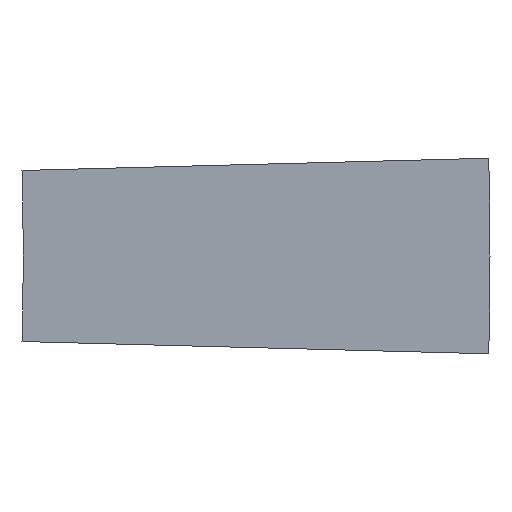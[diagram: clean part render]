
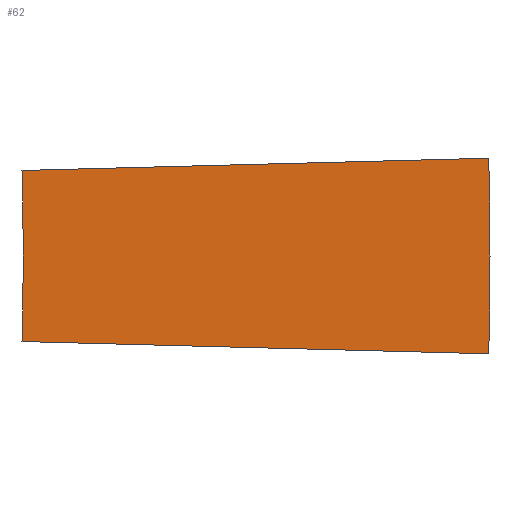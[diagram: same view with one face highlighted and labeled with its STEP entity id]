
A CAD part, front view. The second image highlights one B-rep face of the part: STEP entity #62.
In plain terms, the highlighted planar face has unit normal (0, -1, 0).
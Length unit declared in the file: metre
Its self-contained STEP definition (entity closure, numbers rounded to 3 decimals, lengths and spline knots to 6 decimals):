
#62=ADVANCED_FACE('0:2585',(#89),#90,.T.);
#89=FACE_OUTER_BOUND('',#118,.T.);
#90=PLANE('',#119);
#118=EDGE_LOOP('',(#212,#213,#214,#215,#216,#217));
#119=AXIS2_PLACEMENT_3D('',#218,#219,#220);
#212=ORIENTED_EDGE('',*,*,#273,.T.);
#213=ORIENTED_EDGE('',*,*,#274,.F.);
#214=ORIENTED_EDGE('',*,*,#243,.F.);
#215=ORIENTED_EDGE('',*,*,#256,.T.);
#216=ORIENTED_EDGE('',*,*,#272,.T.);
#217=ORIENTED_EDGE('',*,*,#247,.T.);
#218=CARTESIAN_POINT('',(0.0375,0.003,0.0));
#219=DIRECTION('',(0.,-1.0,0.0));
#220=DIRECTION('',(1.0,0.,-0.0));
#243=EDGE_CURVE('0:2657',#281,#277,#283,.T.);
#247=EDGE_CURVE('0:2648',#285,#289,#291,.T.);
#256=EDGE_CURVE('0:2660',#281,#308,#309,.T.);
#272=EDGE_CURVE('0:2648',#308,#285,#331,.T.);
#273=EDGE_CURVE('0:2654',#289,#332,#333,.T.);
#274=EDGE_CURVE('0:2657',#277,#332,#334,.T.);
#277=VERTEX_POINT('',#337);
#281=VERTEX_POINT('',#342);
#283=CIRCLE('',#345,0.035);
#285=VERTEX_POINT('',#347);
#289=VERTEX_POINT('',#352);
#291=CIRCLE('',#355,0.04);
#308=VERTEX_POINT('',#376);
#309=LINE('',#377,#378);
#331=CIRCLE('',#409,0.04);
#332=VERTEX_POINT('',#410);
#333=LINE('',#411,#412);
#334=CIRCLE('',#413,0.035);
#337=CARTESIAN_POINT('',(0.035,0.003,0.));
#342=CARTESIAN_POINT('',(0.034988,0.003,-0.000916));
#345=AXIS2_PLACEMENT_3D('',#421,#422,#423);
#347=CARTESIAN_POINT('',(0.04,0.003,0.));
#352=CARTESIAN_POINT('',(0.039986,0.003,0.001047));
#355=AXIS2_PLACEMENT_3D('',#429,#430,#431);
#376=CARTESIAN_POINT('',(0.039986,0.003,-0.001047));
#377=CARTESIAN_POINT('',(0.039986,0.003,-0.001047));
#378=VECTOR('',#448,1.0);
#409=AXIS2_PLACEMENT_3D('',#476,#477,#478);
#410=CARTESIAN_POINT('',(0.034988,0.003,0.000916));
#411=CARTESIAN_POINT('',(0.039986,0.003,0.001047));
#412=VECTOR('',#479,1.0);
#413=AXIS2_PLACEMENT_3D('',#480,#481,#482);
#421=CARTESIAN_POINT('',(0.0,0.003,0.0));
#422=DIRECTION('',(0.0,-1.0,0.0));
#423=DIRECTION('',(1.0,0.0,0.0));
#429=CARTESIAN_POINT('',(0.0,0.003,0.0));
#430=DIRECTION('',(0.0,-1.0,0.0));
#431=DIRECTION('',(1.0,0.0,0.0));
#448=DIRECTION('',(1.,0.0,-0.026));
#476=CARTESIAN_POINT('',(0.0,0.003,0.0));
#477=DIRECTION('',(0.0,-1.0,0.0));
#478=DIRECTION('',(1.0,0.0,0.0));
#479=DIRECTION('',(-1.,0.0,-0.026));
#480=CARTESIAN_POINT('',(0.0,0.003,0.0));
#481=DIRECTION('',(0.0,-1.0,0.0));
#482=DIRECTION('',(1.0,0.0,0.0));
